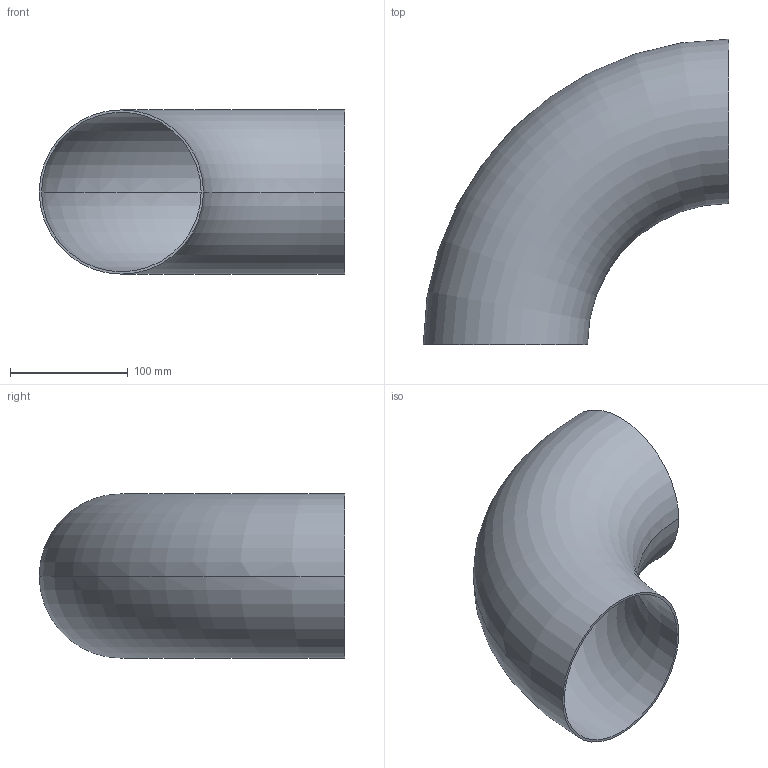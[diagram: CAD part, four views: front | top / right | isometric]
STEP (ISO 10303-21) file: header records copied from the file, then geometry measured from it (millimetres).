
FILE_DESCRIPTION (( 'STEP AP203' ), '1' );
FILE_NAME ('OT200-125-139_7x2_OSTP.step', '2020-12-16T02:45:57', ( '' ), ( '' ), 'SwSTEP 2.0', 'SolidWorks 2014', '' );
FILE_SCHEMA (( 'CONFIG_CONTROL_DESIGN' ));
Length unit declared in the file: millimetre
Products named in the file (1): OT200-125-139_7x2_OSTP
Bounding box: 259.85 x 259.85 x 139.7 mm (x, y, z)
Volume: 258218.5 mm3; surface area: 259948.8 mm2
Topology: 1 solids, 1 shells, 6 faces, 12 edges, 8 vertices
Faces by surface type: torus 4, plane 2
Entity records: 249 total; most frequent: DIRECTION 38, CARTESIAN_POINT 27, ORIENTED_EDGE 24, AXIS2_PLACEMENT_3D 19, EDGE_CURVE 12, CIRCLE 12, VERTEX_POINT 8, PERSON_AND_ORGANIZATION 8
